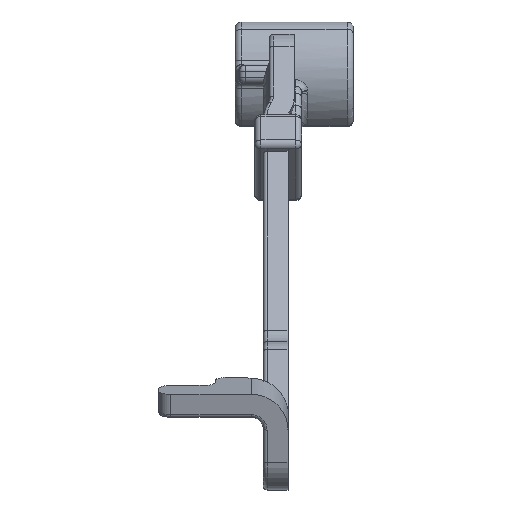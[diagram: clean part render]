
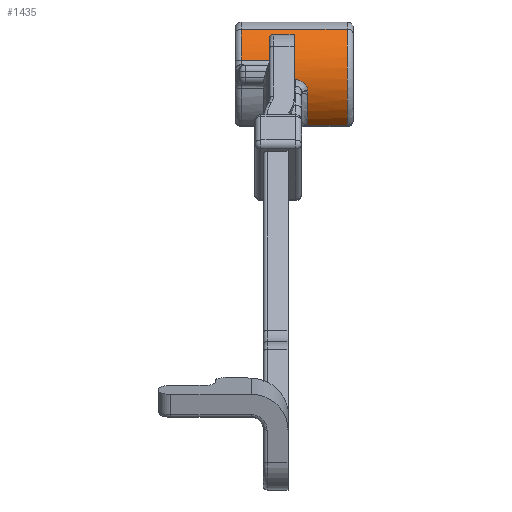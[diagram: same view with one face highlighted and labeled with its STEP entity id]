
A CAD part, top view. The second image highlights one B-rep face of the part: STEP entity #1435.
In plain terms, the highlighted cylindrical face has radius 5.2 mm (diameter 10.4 mm), a partial arc.
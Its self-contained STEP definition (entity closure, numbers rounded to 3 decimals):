
#878=AXIS2_PLACEMENT_3D('Circle Axis2P3D',#876,#877,$) ;
#1265=AXIS2_PLACEMENT_3D('Cylinder Axis2P3D',#1262,#1263,#1264) ;
#1322=AXIS2_PLACEMENT_3D('Circle Axis2P3D',#1320,#1321,$) ;
#1345=AXIS2_PLACEMENT_3D('Circle Axis2P3D',#1343,#1344,$) ;
#1350=AXIS2_PLACEMENT_3D('Circle Axis2P3D',#1348,#1349,$) ;
#1372=AXIS2_PLACEMENT_3D('Circle Axis2P3D',#1370,#1371,$) ;
#1396=AXIS2_PLACEMENT_3D('Circle Axis2P3D',#1394,#1395,$) ;
#726=CARTESIAN_POINT('Vertex',(17.8,7.556,-47.549)) ;
#729=CARTESIAN_POINT('Line Origine',(22.1,7.556,-47.549)) ;
#733=CARTESIAN_POINT('Vertex',(26.4,7.556,-47.549)) ;
#857=CARTESIAN_POINT('Vertex',(26.4,-0.249,-48.112)) ;
#876=CARTESIAN_POINT('Axis2P3D Location',(26.4,3.9,-51.246)) ;
#1009=CARTESIAN_POINT('Line Origine',(22.1,-0.249,-48.112)) ;
#1013=CARTESIAN_POINT('Vertex',(23.2,-0.249,-48.112)) ;
#1262=CARTESIAN_POINT('Axis2P3D Location',(22.85,3.9,-51.246)) ;
#1301=CARTESIAN_POINT('Line Origine',(22.85,3.473,-46.064)) ;
#1305=CARTESIAN_POINT('Vertex',(22.2,3.473,-46.064)) ;
#1307=CARTESIAN_POINT('Vertex',(21.666,3.473,-46.064)) ;
#1311=CARTESIAN_POINT('Control Point',(22.2,3.473,-46.064)) ;
#1312=CARTESIAN_POINT('Control Point',(22.504,3.473,-46.064)) ;
#1313=CARTESIAN_POINT('Control Point',(22.806,3.368,-46.073)) ;
#1314=CARTESIAN_POINT('Control Point',(23.069,3.157,-46.087)) ;
#1315=CARTESIAN_POINT('Control Point',(23.2,2.858,-46.143)) ;
#1316=CARTESIAN_POINT('Control Point',(23.2,2.572,-46.219)) ;
#1317=CARTESIAN_POINT('Vertex',(23.2,2.572,-46.219)) ;
#1320=CARTESIAN_POINT('Axis2P3D Location',(23.2,3.9,-51.246)) ;
#1324=CARTESIAN_POINT('Vertex',(23.2,2.549,-46.225)) ;
#1328=CARTESIAN_POINT('Control Point',(23.2,2.549,-46.225)) ;
#1329=CARTESIAN_POINT('Control Point',(23.2,2.527,-46.231)) ;
#1330=CARTESIAN_POINT('Control Point',(23.2,2.505,-46.237)) ;
#1331=CARTESIAN_POINT('Control Point',(23.2,2.482,-46.243)) ;
#1332=CARTESIAN_POINT('Control Point',(23.2,2.434,-46.257)) ;
#1333=CARTESIAN_POINT('Control Point',(23.2,2.39,-46.27)) ;
#1334=CARTESIAN_POINT('Control Point',(23.2,2.368,-46.277)) ;
#1335=CARTESIAN_POINT('Control Point',(23.2,2.336,-46.287)) ;
#1336=CARTESIAN_POINT('Control Point',(23.2,2.313,-46.294)) ;
#1337=CARTESIAN_POINT('Control Point',(23.2,2.317,-46.293)) ;
#1338=CARTESIAN_POINT('Control Point',(23.2,2.306,-46.297)) ;
#1339=CARTESIAN_POINT('Control Point',(23.2,2.296,-46.3)) ;
#1340=CARTESIAN_POINT('Vertex',(23.2,2.296,-46.3)) ;
#1343=CARTESIAN_POINT('Axis2P3D Location',(23.2,3.9,-51.246)) ;
#1348=CARTESIAN_POINT('Axis2P3D Location',(17.8,3.9,-51.246)) ;
#1352=CARTESIAN_POINT('Vertex',(17.8,5.04,-46.173)) ;
#1355=CARTESIAN_POINT('Line Origine',(22.85,5.04,-46.173)) ;
#1359=CARTESIAN_POINT('Vertex',(20.099,5.04,-46.173)) ;
#1363=CARTESIAN_POINT('Control Point',(20.099,5.04,-46.173)) ;
#1364=CARTESIAN_POINT('Control Point',(20.1,5.058,-46.177)) ;
#1365=CARTESIAN_POINT('Control Point',(20.1,5.076,-46.181)) ;
#1366=CARTESIAN_POINT('Control Point',(20.1,5.094,-46.185)) ;
#1367=CARTESIAN_POINT('Vertex',(20.1,5.094,-46.185)) ;
#1370=CARTESIAN_POINT('Axis2P3D Location',(20.1,3.9,-51.246)) ;
#1374=CARTESIAN_POINT('Vertex',(20.1,6.85,-46.964)) ;
#1378=CARTESIAN_POINT('Control Point',(20.4,7.15,-47.187)) ;
#1379=CARTESIAN_POINT('Control Point',(20.294,7.15,-47.187)) ;
#1380=CARTESIAN_POINT('Control Point',(20.187,7.1,-47.146)) ;
#1381=CARTESIAN_POINT('Control Point',(20.133,7.021,-47.085)) ;
#1382=CARTESIAN_POINT('Control Point',(20.1,6.937,-47.024)) ;
#1383=CARTESIAN_POINT('Control Point',(20.1,6.85,-46.964)) ;
#1384=CARTESIAN_POINT('Vertex',(20.4,7.15,-47.187)) ;
#1387=CARTESIAN_POINT('Line Origine',(22.85,7.15,-47.187)) ;
#1391=CARTESIAN_POINT('Vertex',(22.1,7.15,-47.187)) ;
#1394=CARTESIAN_POINT('Axis2P3D Location',(22.1,3.9,-51.246)) ;
#1398=CARTESIAN_POINT('Vertex',(22.1,5.094,-46.185)) ;
#1402=CARTESIAN_POINT('Control Point',(21.767,3.719,-46.049)) ;
#1403=CARTESIAN_POINT('Control Point',(21.931,4.039,-46.038)) ;
#1404=CARTESIAN_POINT('Control Point',(22.045,4.385,-46.052)) ;
#1405=CARTESIAN_POINT('Control Point',(22.1,4.743,-46.103)) ;
#1406=CARTESIAN_POINT('Control Point',(22.1,5.094,-46.185)) ;
#1407=CARTESIAN_POINT('Vertex',(21.767,3.719,-46.049)) ;
#1411=CARTESIAN_POINT('Control Point',(21.767,3.719,-46.049)) ;
#1412=CARTESIAN_POINT('Control Point',(21.726,3.64,-46.052)) ;
#1413=CARTESIAN_POINT('Control Point',(21.692,3.557,-46.057)) ;
#1414=CARTESIAN_POINT('Control Point',(21.666,3.473,-46.064)) ;
#730=DIRECTION('Vector Direction',(-1.,0.,0.)) ;
#877=DIRECTION('Axis2P3D Direction',(1.,0.,0.)) ;
#1010=DIRECTION('Vector Direction',(-1.,0.,0.)) ;
#1263=DIRECTION('Axis2P3D Direction',(1.,0.,0.)) ;
#1264=DIRECTION('Axis2P3D XDirection',(0.,0.817,0.576)) ;
#1302=DIRECTION('Vector Direction',(1.,0.,0.)) ;
#1321=DIRECTION('Axis2P3D Direction',(1.,0.,0.)) ;
#1344=DIRECTION('Axis2P3D Direction',(1.,0.,0.)) ;
#1349=DIRECTION('Axis2P3D Direction',(1.,0.,0.)) ;
#1356=DIRECTION('Vector Direction',(1.,0.,0.)) ;
#1371=DIRECTION('Axis2P3D Direction',(1.,0.,0.)) ;
#1388=DIRECTION('Vector Direction',(1.,0.,0.)) ;
#1395=DIRECTION('Axis2P3D Direction',(1.,0.,0.)) ;
#731=VECTOR('Line Direction',#730,1.) ;
#1011=VECTOR('Line Direction',#1010,1.) ;
#1303=VECTOR('Line Direction',#1302,1.) ;
#1357=VECTOR('Line Direction',#1356,1.) ;
#1389=VECTOR('Line Direction',#1388,1.) ;
#1417=ORIENTED_EDGE('',*,*,#1309,.F.) ;
#1418=ORIENTED_EDGE('',*,*,#1319,.F.) ;
#1419=ORIENTED_EDGE('',*,*,#1326,.F.) ;
#1420=ORIENTED_EDGE('',*,*,#1342,.F.) ;
#1421=ORIENTED_EDGE('',*,*,#1347,.F.) ;
#1422=ORIENTED_EDGE('',*,*,#1015,.T.) ;
#1423=ORIENTED_EDGE('',*,*,#880,.F.) ;
#1424=ORIENTED_EDGE('',*,*,#735,.F.) ;
#1425=ORIENTED_EDGE('',*,*,#1354,.T.) ;
#1426=ORIENTED_EDGE('',*,*,#1361,.F.) ;
#1427=ORIENTED_EDGE('',*,*,#1369,.T.) ;
#1428=ORIENTED_EDGE('',*,*,#1376,.T.) ;
#1429=ORIENTED_EDGE('',*,*,#1386,.F.) ;
#1430=ORIENTED_EDGE('',*,*,#1393,.T.) ;
#1431=ORIENTED_EDGE('',*,*,#1400,.F.) ;
#1432=ORIENTED_EDGE('',*,*,#1409,.F.) ;
#1433=ORIENTED_EDGE('',*,*,#1415,.T.) ;
#1435=ADVANCED_FACE('PartBody UMM MNM LH',(#1434),#1266,.T.) ;
#1310=B_SPLINE_CURVE_WITH_KNOTS('',5,(#1311,#1312,#1313,#1314,#1315,#1316),.UNSPECIFIED.,.F.,.U.,(6,6),(2.655,4.355),.UNSPECIFIED.) ;
#1327=B_SPLINE_CURVE_WITH_KNOTS('',5,(#1328,#1329,#1330,#1331,#1332,#1333,#1334,#1335,#1336,#1337,#1338,#1339),.UNSPECIFIED.,.F.,.U.,(6,3,3,6),(0.331,0.882,1.497,1.901),.UNSPECIFIED.) ;
#1362=B_SPLINE_CURVE_WITH_KNOTS('',3,(#1363,#1364,#1365,#1366),.UNSPECIFIED.,.F.,.U.,(4,4),(1.341,1.51),.UNSPECIFIED.) ;
#1377=B_SPLINE_CURVE_WITH_KNOTS('',5,(#1378,#1379,#1380,#1381,#1382,#1383),.UNSPECIFIED.,.F.,.U.,(6,6),(0.,0.748),.UNSPECIFIED.) ;
#1401=B_SPLINE_CURVE_WITH_KNOTS('',4,(#1402,#1403,#1404,#1405,#1406),.UNSPECIFIED.,.F.,.U.,(5,5),(0.,2.035),.UNSPECIFIED.) ;
#1410=B_SPLINE_CURVE_WITH_KNOTS('',3,(#1411,#1412,#1413,#1414),.UNSPECIFIED.,.F.,.U.,(4,4),(0.,0.378),.UNSPECIFIED.) ;
#879=CIRCLE('generated circle',#878,5.2) ;
#1323=CIRCLE('generated circle',#1322,5.2) ;
#1346=CIRCLE('generated circle',#1345,5.2) ;
#1351=CIRCLE('generated circle',#1350,5.2) ;
#1373=CIRCLE('generated circle',#1372,5.2) ;
#1397=CIRCLE('generated circle',#1396,5.2) ;
#1266=CYLINDRICAL_SURFACE('generated cylinder',#1265,5.2) ;
#735=EDGE_CURVE('',#727,#734,#732,.F.) ;
#880=EDGE_CURVE('',#734,#858,#879,.T.) ;
#1015=EDGE_CURVE('',#1014,#858,#1012,.F.) ;
#1309=EDGE_CURVE('',#1306,#1308,#1304,.F.) ;
#1319=EDGE_CURVE('',#1318,#1306,#1310,.F.) ;
#1326=EDGE_CURVE('',#1325,#1318,#1323,.F.) ;
#1342=EDGE_CURVE('',#1341,#1325,#1327,.F.) ;
#1347=EDGE_CURVE('',#1014,#1341,#1346,.F.) ;
#1354=EDGE_CURVE('',#727,#1353,#1351,.T.) ;
#1361=EDGE_CURVE('',#1360,#1353,#1358,.F.) ;
#1369=EDGE_CURVE('',#1360,#1368,#1362,.T.) ;
#1376=EDGE_CURVE('',#1368,#1375,#1373,.F.) ;
#1386=EDGE_CURVE('',#1385,#1375,#1377,.T.) ;
#1393=EDGE_CURVE('',#1385,#1392,#1390,.T.) ;
#1400=EDGE_CURVE('',#1399,#1392,#1397,.F.) ;
#1409=EDGE_CURVE('',#1408,#1399,#1401,.T.) ;
#1415=EDGE_CURVE('',#1408,#1308,#1410,.T.) ;
#1416=EDGE_LOOP('',(#1417,#1418,#1419,#1420,#1421,#1422,#1423,#1424,#1425,#1426,#1427,#1428,#1429,#1430,#1431,#1432,#1433)) ;
#1434=FACE_OUTER_BOUND('',#1416,.T.) ;
#732=LINE('Line',#729,#731) ;
#1012=LINE('Line',#1009,#1011) ;
#1304=LINE('Line',#1301,#1303) ;
#1358=LINE('Line',#1355,#1357) ;
#1390=LINE('Line',#1387,#1389) ;
#727=VERTEX_POINT('',#726) ;
#734=VERTEX_POINT('',#733) ;
#858=VERTEX_POINT('',#857) ;
#1014=VERTEX_POINT('',#1013) ;
#1306=VERTEX_POINT('',#1305) ;
#1308=VERTEX_POINT('',#1307) ;
#1318=VERTEX_POINT('',#1317) ;
#1325=VERTEX_POINT('',#1324) ;
#1341=VERTEX_POINT('',#1340) ;
#1353=VERTEX_POINT('',#1352) ;
#1360=VERTEX_POINT('',#1359) ;
#1368=VERTEX_POINT('',#1367) ;
#1375=VERTEX_POINT('',#1374) ;
#1385=VERTEX_POINT('',#1384) ;
#1392=VERTEX_POINT('',#1391) ;
#1399=VERTEX_POINT('',#1398) ;
#1408=VERTEX_POINT('',#1407) ;
